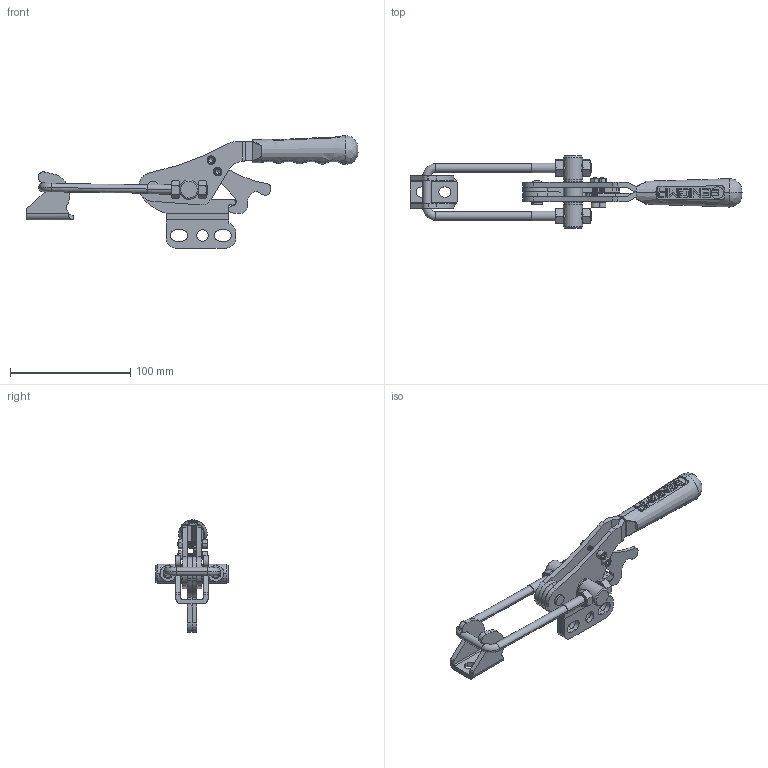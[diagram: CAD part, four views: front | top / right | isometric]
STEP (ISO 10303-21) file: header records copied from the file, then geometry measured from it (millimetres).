
FILE_DESCRIPTION (( 'STEP AP203' ), '1' );
FILE_NAME ('13008_D_K.STEP', '2022-12-02T10:21:37', ( '' ), ( '' ), 'SwSTEP 2.0', 'SolidWorks 2023', '' );
FILE_SCHEMA (( 'CONFIG_CONTROL_DESIGN' ));
Length unit declared in the file: millimetre
Products named in the file (14): 13108_OTOMAT_Varsay_X2_0131_X0_lan; M8_M10_KK; 2022_13108_13110_Y_G_X2_00d6_X0_VDE; Mirror2022_13108_13110_Y_G_X2_00d6_X0_VDE; 13008_H.KOLU_01.12.2022_Varsay_X2_0131_X0_lan; C90_Yeni_Tutamak_Varsay_X2_0131_X0_lan; M8x50_U_KANCA_Varsayılan; 13108_K_X2_0130_X0_L_X2_0130_X0_T_MEKAN_X2_0130_X0_ZMASI; M8 Somun; S_M4x20 Imbus Civata; Mirror13008_H.KOLU_01.12.2022_Varsay_X2_0131_X0_lan; _X2_00d8_X0_6x18_P(PER_X2_00c70130_X0_N)_Varsay_X2_0131_X0_lan; 13008_D_K; M4_S
Assembly tree (18 placements, depth 2):
  13008_D_K
    2022_13108_13110_Y_G_X2_00d6_X0_VDE
    13108_K_X2_0130_X0_L_X2_0130_X0_T_MEKAN_X2_0130_X0_ZMASI
    13108_OTOMAT_Varsay_X2_0131_X0_lan
    Mirror2022_13108_13110_Y_G_X2_00d6_X0_VDE
    M8_M10_KK
    S_M4x20 Imbus Civata  x2
    _X2_00d8_X0_6x18_P(PER_X2_00c70130_X0_N)_Varsay_X2_0131_X0_lan
    M8 Somun  x4
    M4_S  x2
    C90_Yeni_Tutamak_Varsay_X2_0131_X0_lan
    13008_H.KOLU_01.12.2022_Varsay_X2_0131_X0_lan
    Mirror13008_H.KOLU_01.12.2022_Varsay_X2_0131_X0_lan
    M8x50_U_KANCA_Varsayılan
Bounding box: 276.54 x 60 x 93.53 mm (x, y, z)
Volume: 110480.5 mm3; surface area: 65669.1 mm2
Topology: 16 solids, 24 shells, 844 faces, 2210 edges, 1417 vertices
Faces by surface type: plane 348, cylinder 336, cone 82, bspline 74, torus 4
Entity records: 47097 total; most frequent: CARTESIAN_POINT 29806, ORIENTED_EDGE 3400, DIRECTION 3104, EDGE_CURVE 1704, VERTEX_POINT 1098, AXIS2_PLACEMENT_3D 1093, LINE 918, VECTOR 918
